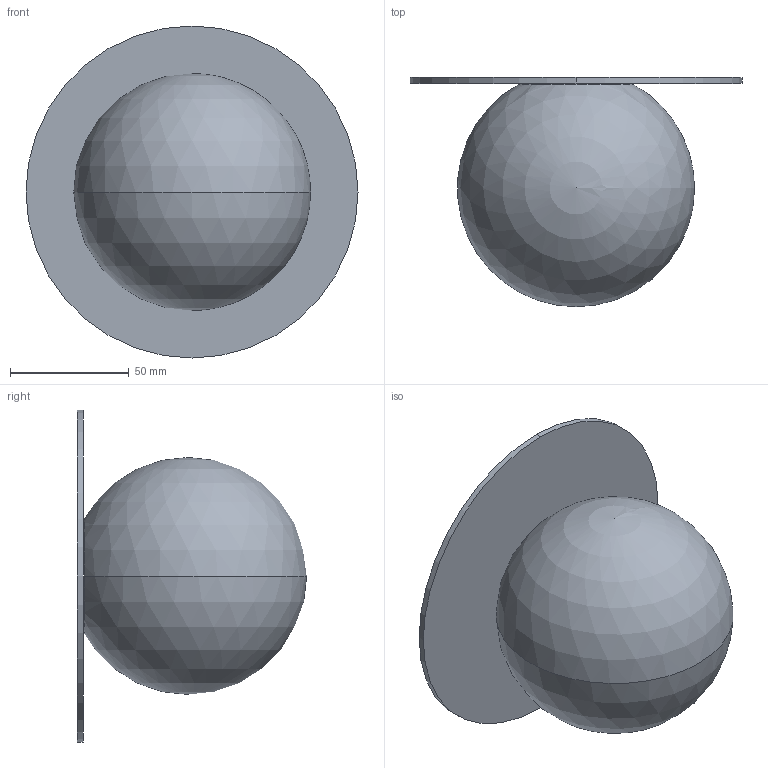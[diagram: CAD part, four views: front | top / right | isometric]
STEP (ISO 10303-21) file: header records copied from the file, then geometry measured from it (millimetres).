
FILE_DESCRIPTION (( 'STEP AP203' ), '1' );
FILE_NAME ('PLKI1001IXXXXXX-PER 3D.STEP', '2025-06-25T07:28:29', ( '' ), ( '' ), 'SwSTEP 2.0', 'SolidWorks 2024', '' );
FILE_SCHEMA (( 'CONFIG_CONTROL_DESIGN' ));
Length unit declared in the file: millimetre
Products named in the file (3): WSCM2C0201-0700-02_WSCM2C0201-0700-02; PLKI1001IXXXXXX-PER 3D; WSVAXXX0100BC7XX00
Assembly tree (2 placements, depth 2):
  PLKI1001IXXXXXX-PER 3D
    WSCM2C0201-0700-02_WSCM2C0201-0700-02
    WSVAXXX0100BC7XX00
Bounding box: 140 x 96.66 x 140 mm (x, y, z)
Volume: 148119.4 mm3; surface area: 87439.1 mm2
Topology: 2 solids, 2 shells, 37 faces, 98 edges, 62 vertices
Faces by surface type: cylinder 18, cone 8, plane 7, sphere 4
Entity records: 1417 total; most frequent: DIRECTION 222, CARTESIAN_POINT 186, ORIENTED_EDGE 176, AXIS2_PLACEMENT_3D 92, EDGE_CURVE 88, VERTEX_POINT 56, CIRCLE 50, EDGE_LOOP 50
